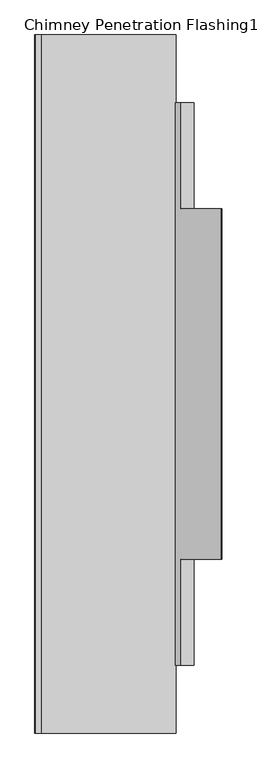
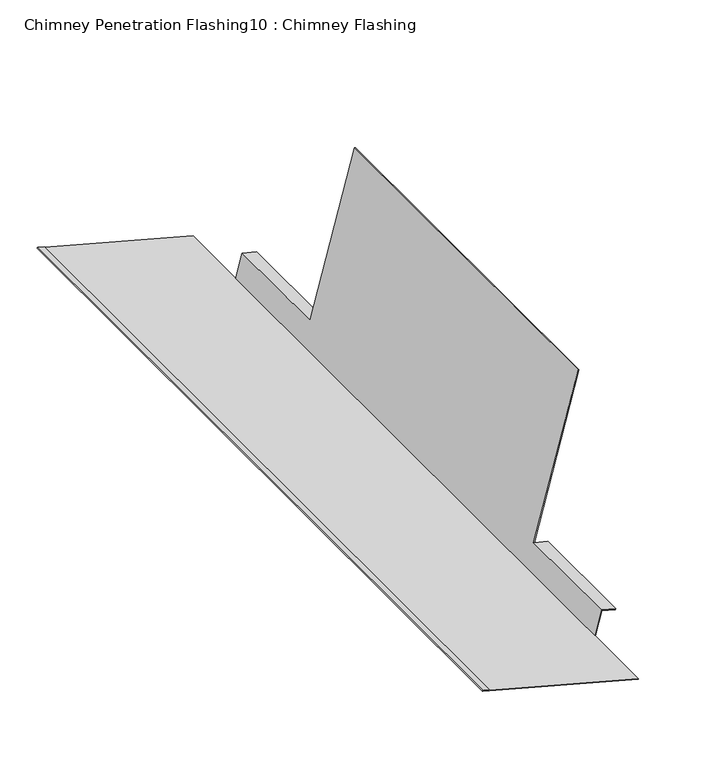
"""IFC4 building model written with IfcOpenShell, lengths in millimetres: proxy geometry, Chimney Penetration Flashing10 : Chimney Flashing."""

from ifc_helpers import new_model, si_unit, frame, origin, place, context, project, spatial, circle_curve, source, transform, mapped, element, save
from ifc_brep_helpers import plane_surface, cylinder_surface, advanced_brep


def chimney_penetration_flashing10_chimney_flashing_99962ab8(model_context):
    return source(origin(), model_context, "Body", "AdvancedBrep", [
        advanced_brep(
        [(-6074.4421729, -35512.8838318, 9945.6112442), (-6074.1836072, -35512.8838318, 9946.5772379), (-6306.0386129, -35512.8838318, 10008.5722555), (-6305.7803007, -35512.8838318, 10009.5383169), (-6315.4409153, -35512.8838318, 10012.1214399), (-6315.9575399, -35512.8838318, 10010.1893169), (-6074.4421729, -34312.8838318, 9945.6112442), (-6315.9575399, -34312.8838318, 10010.1893169), (-6315.4409153, -34312.8838318, 10012.1214399), (-6305.7803007, -34312.8838318, 10009.5383169), (-6306.0386129, -34312.8838318, 10008.5722555), (-6074.1836072, -34312.8838318, 9946.5772379), (-6074.1836072, -34429.2203831, 9946.5772379), (-6064.0995454, -34429.2203831, 9984.2509927), (-6064.0995454, -34611.8838318, 9984.2509927), (-6063.8409798, -34611.8838318, 9985.2169864), (-5994.3716719, -34611.8838318, 10244.752255), (-5994.3716719, -35213.8838318, 10244.752255), (-6063.8409798, -35213.8838318, 9985.2169864), (-6064.0995454, -35213.8838318, 9984.2509927), (-6064.0995454, -35396.5472806, 9984.2509927), (-6074.1836072, -35396.5472806, 9946.5772379), (-6075.1496687, -35396.5472806, 9946.8355502), (-6075.1496687, -34429.2203831, 9946.8355502), (-5995.3376656, -35213.8838318, 10245.0108207), (-6064.8069056, -35213.8838318, 9985.4758055), (-5995.3376656, -34611.8838318, 10245.0108207), (-6064.8069056, -34611.8838318, 9985.4758055), (-6042.491813, -35213.8838318, 9979.4964945), (-6042.7503787, -35213.8838318, 9978.5305007), (-6042.491813, -35396.5472806, 9979.4964945), (-6042.7503787, -35396.5472806, 9978.5305007), (-6064.8069056, -34429.2203831, 9985.4758055), (-6064.8069056, -35396.5472806, 9985.4758055), (-6042.7503787, -34611.8838318, 9978.5305007), (-6042.491813, -34611.8838318, 9979.4964945), (-6042.491813, -34429.2203831, 9979.4964945), (-6042.7503787, -34429.2203831, 9978.5305007)],
        [
            (0, 1),
            (1, 2),
            (2, 3),
            (3, 4),
            (4, 5, circle_curve(frame((-6315.6992276, -35512.8838318, 10011.1553784), z_axis=(0.0, -1.0, 0.0), x_axis=(-0.49954561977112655, 0.0, -0.8662875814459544)), 1.0)),
            (5, 0),
            (6, 7),
            (7, 8, circle_curve(frame((-6315.6992276, -34312.8838318, 10011.1553784), z_axis=(0.0, 1.0, 0.0), x_axis=(-0.49954561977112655, 0.0, -0.8662875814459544)), 1.0)),
            (8, 9),
            (9, 10),
            (10, 11),
            (11, 6),
            (0, 6),
            (11, 12),
            (12, 13),
            (13, 14),
            (14, 15),
            (15, 16),
            (16, 17),
            (17, 18),
            (18, 19),
            (19, 20),
            (20, 21),
            (21, 1),
            (21, 22),
            (22, 23),
            (23, 12),
            (10, 2),
            (9, 3),
            (8, 4),
            (7, 5),
            (17, 24),
            (24, 25),
            (25, 18),
            (26, 16),
            (15, 27),
            (27, 26),
            (26, 24),
            (28, 29),
            (29, 19),
            (18, 28),
            (30, 31),
            (31, 29),
            (28, 30),
            (31, 20),
            (27, 32),
            (32, 23),
            (22, 33),
            (33, 25),
            (30, 33),
            (14, 34),
            (34, 35),
            (35, 15),
            (36, 37),
            (37, 13),
            (32, 36),
            (34, 37),
            (36, 35),
        ],
        [
            plane_surface(frame((-7781.0894126, -35512.8838318, 10336.9190019), z_axis=(0.0, -1.0, 0.0), x_axis=(-0.8662875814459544, 0.0, 0.49954561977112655))),
            plane_surface(frame((-7781.0894126, -34312.8838318, 10336.9190019), z_axis=(0.0, 1.0, 0.0), x_axis=(-0.8662875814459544, 0.0, 0.49954561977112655))),
            plane_surface(frame((-6074.4421729, -35512.8838318, 9945.6112442), z_axis=(0.9659936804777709, 0.0, -0.25856567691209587), x_axis=(0.0, 1.0, 0.0))),
            plane_surface(frame((-6074.1836072, -35512.8838318, 9946.5772379), z_axis=(0.2583122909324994, 0.0, 0.9660614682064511), x_axis=(0.0, 1.0, 0.0))),
            plane_surface(frame((-6306.0386129, -35512.8838318, 10008.5722555), z_axis=(0.9660614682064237, 0.0, -0.2583122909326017), x_axis=(0.0, 1.0, 0.0))),
            plane_surface(frame((-6305.7803007, -35512.8838318, 10009.5383169), z_axis=(0.2583122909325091, 0.0, 0.9660614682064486), x_axis=(0.0, 1.0, 0.0))),
            cylinder_surface(frame((-6315.6992276, -35512.8838318, 10011.1553784), z_axis=(0.0, -1.0, 0.0), x_axis=(-0.49954561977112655, 0.0, -0.8662875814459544)), 1.0),
            plane_surface(frame((-6315.9575399, -35512.8838318, 10010.1893169), z_axis=(-0.2583122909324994, 0.0, -0.9660614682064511), x_axis=(0.0, 1.0, 0.0))),
            plane_surface(frame((-7781.0894126, -35213.8838318, 10336.9190019), z_axis=(0.0, -1.0, 0.0), x_axis=(-0.8662875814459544, 0.0, 0.49954561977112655))),
            plane_surface(frame((-7781.0894126, -34611.8838318, 10336.9190019), z_axis=(0.0, 1.0, 0.0), x_axis=(-0.8662875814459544, 0.0, 0.49954561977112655))),
            plane_surface(frame((-5994.3716719, -35213.8838318, 10244.752255), z_axis=(0.2585656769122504, 0.0, 0.9659936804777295), x_axis=(0.0, 1.0, 0.0))),
            plane_surface(frame((-7781.0894126, -35213.8838318, 10336.9190019), z_axis=(0.0, 1.0, 0.0), x_axis=(-0.8662875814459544, 0.0, 0.49954561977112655))),
            plane_surface(frame((-6042.7503787, -35396.5472806, 9978.5305007), z_axis=(0.9659936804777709, 0.0, -0.25856567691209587), x_axis=(0.0, 1.0, 0.0))),
            plane_surface(frame((-6064.0995454, -35396.5472806, 9984.2509927), z_axis=(-0.2588190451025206, 0.0, -0.9659258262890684), x_axis=(0.0, 1.0, 0.0))),
            plane_surface(frame((-5995.3376656, -35213.8838318, 10245.0108207), z_axis=(-0.9659936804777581, 0.0, 0.25856567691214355), x_axis=(0.0, 1.0, 0.0))),
            plane_surface(frame((-7781.0894126, -35396.5472806, 10336.9190019), z_axis=(0.0, -1.0, 0.0), x_axis=(-0.8662875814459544, 0.0, 0.49954561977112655))),
            plane_surface(frame((-6042.491813, -35396.5472806, 9979.4964945), z_axis=(0.2588190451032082, 0.0, 0.9659258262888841), x_axis=(0.0, 1.0, 0.0))),
            plane_surface(frame((-7781.0894126, -34611.8838318, 10336.9190019), z_axis=(0.0, -1.0, 0.0), x_axis=(-0.8662875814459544, 0.0, 0.49954561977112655))),
            plane_surface(frame((-7781.0894126, -34429.2203831, 10336.9190019), z_axis=(0.0, 1.0, 0.0), x_axis=(-0.8662875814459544, 0.0, 0.49954561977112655))),
            plane_surface(frame((-6042.7503787, -34611.8838318, 9978.5305007), z_axis=(0.9659936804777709, 0.0, -0.25856567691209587), x_axis=(0.0, 1.0, 0.0))),
            plane_surface(frame((-6064.0995454, -34611.8838318, 9984.2509927), z_axis=(-0.2588190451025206, 0.0, -0.9659258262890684), x_axis=(0.0, 1.0, 0.0))),
            plane_surface(frame((-6042.491813, -34611.8838318, 9979.4964945), z_axis=(0.2588190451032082, 0.0, 0.9659258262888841), x_axis=(0.0, 1.0, 0.0))),
        ],
        [
            (0, [[1, 2, 3, 4, 5, 6]]),
            (1, [[7, 8, 9, 10, 11, 12]]),
            (2, [[-1, 13, -12, 14, 15, 16, 17, 18, 19, 20, 21, 22, 23, 24]]),
            (3, [[-2, -24, 25, 26, 27, -14, -11, 28]]),
            (4, [[-3, -28, -10, 29]]),
            (5, [[-4, -29, -9, 30]]),
            (6, [[-5, -30, -8, 31]]),
            (7, [[-6, -31, -7, -13]]),
            (8, [[32, 33, 34, -20]]),
            (9, [[35, -18, 36, 37]]),
            (10, [[-32, -19, -35, 38]]),
            (11, [[39, 40, -21, 41]]),
            (12, [[42, 43, -39, 44]]),
            (13, [[45, -22, -40, -43]]),
            (14, [[-38, -37, 46, 47, -26, 48, 49, -33]]),
            (15, [[50, -48, -25, -23, -45, -42]]),
            (16, [[-50, -44, -41, -34, -49]]),
            (17, [[51, 52, 53, -17]]),
            (18, [[54, 55, -15, -27, -47, 56]]),
            (19, [[-52, 57, -54, 58]]),
            (20, [[-51, -16, -55, -57]]),
            (21, [[-56, -46, -36, -53, -58]]),
        ],
    ),
    ])


if __name__ == "__main__":
    model = new_model("IFC4")
    model_context = context("Model", 3, world=origin())
    ifc_project = project(units=[si_unit("LENGTHUNIT", "METRE", prefix="MILLI")], contexts=[model_context])
    site = spatial("IfcSite", under=ifc_project)
    building = spatial("IfcBuilding", under=site)
    placement = place(None, origin())
    chimney_penetration_flashing10_chimney_flashing_shape = chimney_penetration_flashing10_chimney_flashing_99962ab8(model_context)
    element("IfcBuildingElementProxy", 1, Name="Chimney Penetration Flashing10 : Chimney Flashing", ObjectType="Chimney Penetration Flashing10 : Chimney Flashing", at=placement, inside=building, context=model_context, shape_type="MappedRepresentation", body=[
        mapped(chimney_penetration_flashing10_chimney_flashing_shape, transform((0.0, 0.0, 0.0), x_axis=(1.0, 0.0, 0.0), y_axis=(0.0, 1.0, 0.0), z_axis=(0.0, 0.0, 1.0))),
    ])
    save(model, "model.ifc")
